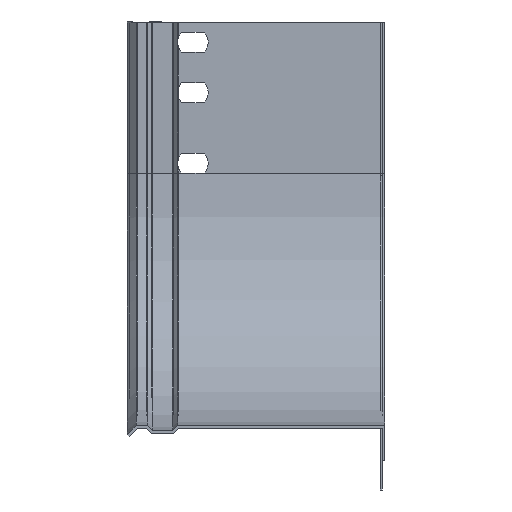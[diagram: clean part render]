
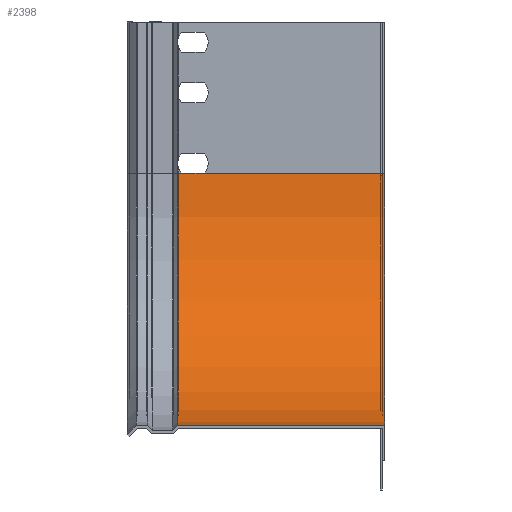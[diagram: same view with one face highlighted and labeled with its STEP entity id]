
A CAD part, left-side view. The second image highlights one B-rep face of the part: STEP entity #2398.
In plain terms, the highlighted cylindrical face has radius 100 mm (diameter 200 mm), a partial arc.
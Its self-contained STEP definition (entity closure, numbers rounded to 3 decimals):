
#47 = VERTEX_POINT ( 'NONE', #3221 ) ;
#116 = ORIENTED_EDGE ( 'NONE', *, *, #3519, .T. ) ;
#198 = DIRECTION ( 'NONE',  ( 0., 0., -1. ) ) ;
#242 = EDGE_CURVE ( 'NONE', #1413, #5324, #3225, .T. ) ;
#261 = LINE ( 'NONE', #3264, #3292 ) ;
#271 = EDGE_CURVE ( 'NONE', #584, #5018, #3198, .T. ) ;
#337 = EDGE_CURVE ( 'NONE', #595, #4933, #3558, .T. ) ;
#404 = DIRECTION ( 'NONE',  ( 0., 0., -1. ) ) ;
#584 = VERTEX_POINT ( 'NONE', #1918 ) ;
#595 = VERTEX_POINT ( 'NONE', #2341 ) ;
#652 = ORIENTED_EDGE ( 'NONE', *, *, #337, .T. ) ;
#655 = LINE ( 'NONE', #1110, #909 ) ;
#685 = CARTESIAN_POINT ( 'NONE',  ( -60., 0., 60. ) ) ;
#749 = CARTESIAN_POINT ( 'NONE',  ( -60., 0., 160. ) ) ;
#862 = CARTESIAN_POINT ( 'NONE',  ( -60., 0., 60. ) ) ;
#909 = VECTOR ( 'NONE', #1493, 1000. ) ;
#1067 = EDGE_CURVE ( 'NONE', #4933, #1413, #261, .T. ) ;
#1080 = VECTOR ( 'NONE', #4333, 1000. ) ;
#1086 = LINE ( 'NONE', #5441, #5305 ) ;
#1110 = CARTESIAN_POINT ( 'NONE',  ( -60., 0., 160. ) ) ;
#1117 = FACE_OUTER_BOUND ( 'NONE', #4265, .T. ) ;
#1167 = ORIENTED_EDGE ( 'NONE', *, *, #1067, .T. ) ;
#1399 = ORIENTED_EDGE ( 'NONE', *, *, #242, .T. ) ;
#1413 = VERTEX_POINT ( 'NONE', #2258 ) ;
#1493 = DIRECTION ( 'NONE',  ( 0., 1., 0. ) ) ;
#1581 = CARTESIAN_POINT ( 'NONE',  ( -60., 82., 60. ) ) ;
#1647 = DIRECTION ( 'NONE',  ( 0., -1., 0. ) ) ;
#1918 = CARTESIAN_POINT ( 'NONE',  ( -60., 82., 160. ) ) ;
#1942 = LINE ( 'NONE', #2750, #1080 ) ;
#2258 = CARTESIAN_POINT ( 'NONE',  ( -160., 71.528, 60. ) ) ;
#2341 = CARTESIAN_POINT ( 'NONE',  ( -60., 0., 160. ) ) ;
#2373 = ORIENTED_EDGE ( 'NONE', *, *, #5349, .F. ) ;
#2398 = ADVANCED_FACE ( 'NONE', ( #1117 ), #3333, .F. ) ;
#2439 = EDGE_CURVE ( 'NONE', #5215, #47, #1086, .T. ) ;
#2676 = VECTOR ( 'NONE', #4991, 1000. ) ;
#2703 = ORIENTED_EDGE ( 'NONE', *, *, #2439, .F. ) ;
#2750 = CARTESIAN_POINT ( 'NONE',  ( -160., 0., 60. ) ) ;
#2890 = EDGE_CURVE ( 'NONE', #595, #5215, #655, .T. ) ;
#2893 = VECTOR ( 'NONE', #5116, 1000. ) ;
#3087 = CARTESIAN_POINT ( 'NONE',  ( -60., 71.528, 160. ) ) ;
#3194 = CARTESIAN_POINT ( 'NONE',  ( -160., 80.472, 60. ) ) ;
#3198 = CIRCLE ( 'NONE', #4562, 100. ) ;
#3214 = CARTESIAN_POINT ( 'NONE',  ( -160., 0., 60. ) ) ;
#3221 = CARTESIAN_POINT ( 'NONE',  ( -60., 80.472, 160. ) ) ;
#3225 = LINE ( 'NONE', #3194, #2676 ) ;
#3264 = CARTESIAN_POINT ( 'NONE',  ( -160., 0., 60. ) ) ;
#3292 = VECTOR ( 'NONE', #4178, 1000. ) ;
#3298 = DIRECTION ( 'NONE',  ( 0., 0., -1. ) ) ;
#3333 = CYLINDRICAL_SURFACE ( 'NONE', #5496, 100. ) ;
#3515 = CARTESIAN_POINT ( 'NONE',  ( -160., 80.472, 60. ) ) ;
#3519 = EDGE_CURVE ( 'NONE', #5324, #5018, #1942, .T. ) ;
#3558 = CIRCLE ( 'NONE', #5027, 100. ) ;
#3654 = ORIENTED_EDGE ( 'NONE', *, *, #2890, .F. ) ;
#4049 = DIRECTION ( 'NONE',  ( 0., -1., 0. ) ) ;
#4178 = DIRECTION ( 'NONE',  ( 0., 1., 0. ) ) ;
#4265 = EDGE_LOOP ( 'NONE', ( #3654, #652, #1167, #1399, #116, #5492, #2373, #2703 ) ) ;
#4333 = DIRECTION ( 'NONE',  ( 0., 1., 0. ) ) ;
#4519 = DIRECTION ( 'NONE',  ( 0., 1., 0. ) ) ;
#4562 = AXIS2_PLACEMENT_3D ( 'NONE', #1581, #4049, #198 ) ;
#4933 = VERTEX_POINT ( 'NONE', #3214 ) ;
#4991 = DIRECTION ( 'NONE',  ( 0., 1., 0. ) ) ;
#5018 = VERTEX_POINT ( 'NONE', #5475 ) ;
#5027 = AXIS2_PLACEMENT_3D ( 'NONE', #862, #1647, #404 ) ;
#5033 = DIRECTION ( 'NONE',  ( 0., -1., 0. ) ) ;
#5116 = DIRECTION ( 'NONE',  ( 0., 1., 0. ) ) ;
#5215 = VERTEX_POINT ( 'NONE', #3087 ) ;
#5305 = VECTOR ( 'NONE', #4519, 1000. ) ;
#5324 = VERTEX_POINT ( 'NONE', #3515 ) ;
#5349 = EDGE_CURVE ( 'NONE', #47, #584, #5549, .T. ) ;
#5441 = CARTESIAN_POINT ( 'NONE',  ( -60., 80.472, 160. ) ) ;
#5475 = CARTESIAN_POINT ( 'NONE',  ( -160., 82., 60. ) ) ;
#5492 = ORIENTED_EDGE ( 'NONE', *, *, #271, .F. ) ;
#5496 = AXIS2_PLACEMENT_3D ( 'NONE', #685, #5033, #3298 ) ;
#5549 = LINE ( 'NONE', #749, #2893 ) ;
